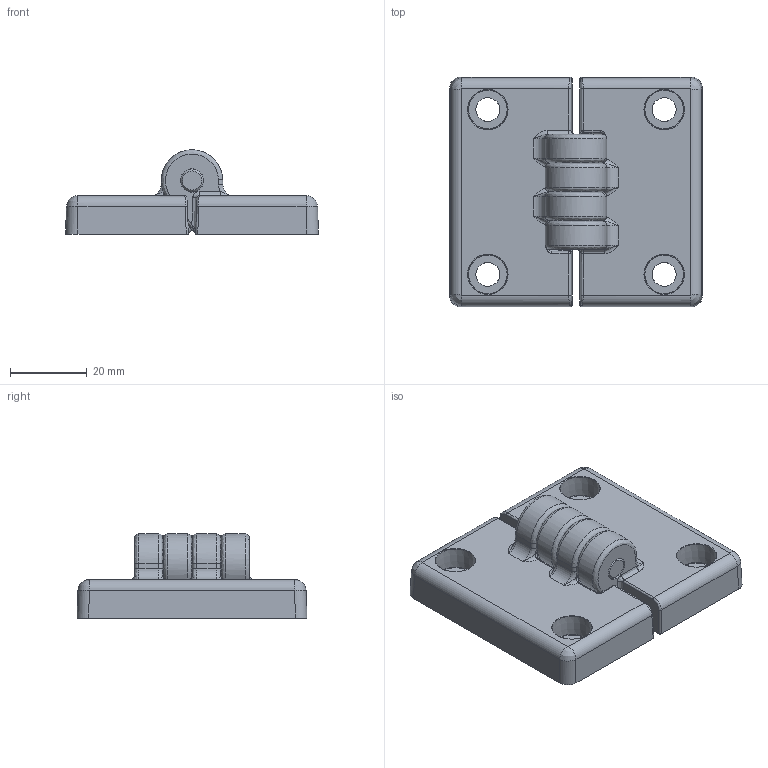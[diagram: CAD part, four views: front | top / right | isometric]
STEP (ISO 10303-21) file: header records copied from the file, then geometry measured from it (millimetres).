
FILE_DESCRIPTION (( 'STEP AP214' ), '1' );
FILE_NAME ('F31175A.step', '2024-12-03T16:17:37', ( '' ), ( '' ), 'SwSTEP 2.0', 'SolidWorks 2023', '' );
FILE_SCHEMA (( 'AUTOMOTIVE_DESIGN' ));
Length unit declared in the file: millimetre
Products named in the file (3): L19182A; F31175A; N30158
Assembly tree (3 placements, depth 2):
  F31175A
    L19182A  x2
    N30158
Bounding box: 66 x 60 x 22 mm (x, y, z)
Volume: 39824.1 mm3; surface area: 15208 mm2
Topology: 3 solids, 3 shells, 2056 faces, 5759 edges, 3769 vertices
Faces by surface type: plane 1842, cylinder 106, bspline 82, torus 16, cone 10
Full cylindrical faces by diameter (mm): 6 x1, 6.05 x4, 8 x4, 10 x2
Entity records: 43709 total; most frequent: CARTESIAN_POINT 14919, ORIENTED_EDGE 6286, DIRECTION 5398, EDGE_CURVE 3143, VECTOR 2706, LINE 2706, VERTEX_POINT 2059, AXIS2_PLACEMENT_3D 1346
